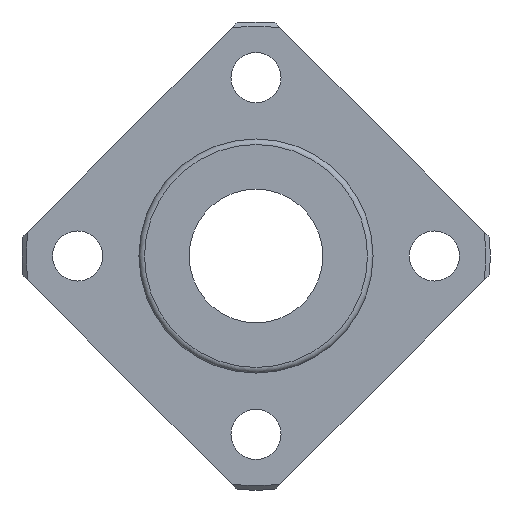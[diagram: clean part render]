
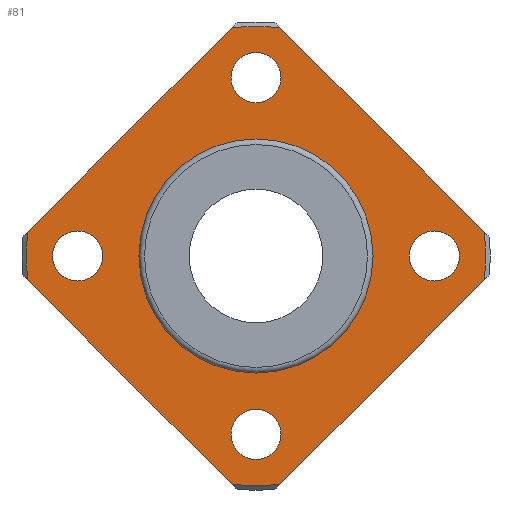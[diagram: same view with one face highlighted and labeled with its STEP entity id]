
A CAD part, left-side view. The second image highlights one B-rep face of the part: STEP entity #81.
In plain terms, the highlighted planar face has unit normal (-1, 0, 0).
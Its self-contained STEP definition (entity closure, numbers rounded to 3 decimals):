
#81=ADVANCED_FACE('',(#124,#125,#126,#127,#128,#129),#130,.T.);
#124=FACE_BOUND('',#224,.T.);
#125=FACE_BOUND('',#225,.T.);
#126=FACE_BOUND('',#226,.T.);
#127=FACE_BOUND('',#227,.T.);
#128=FACE_BOUND('',#228,.T.);
#129=FACE_OUTER_BOUND('',#229,.T.);
#130=PLANE('',#230);
#224=EDGE_LOOP('',(#362));
#225=EDGE_LOOP('',(#363));
#226=EDGE_LOOP('',(#364));
#227=EDGE_LOOP('',(#365));
#228=EDGE_LOOP('',(#366));
#229=EDGE_LOOP('',(#367,#368,#369,#370,#371,#372,#373,#374));
#230=AXIS2_PLACEMENT_3D('',#375,#376,#377);
#362=ORIENTED_EDGE('',*,*,#589,.F.);
#363=ORIENTED_EDGE('',*,*,#590,.T.);
#364=ORIENTED_EDGE('',*,*,#591,.T.);
#365=ORIENTED_EDGE('',*,*,#592,.T.);
#366=ORIENTED_EDGE('',*,*,#593,.T.);
#367=ORIENTED_EDGE('',*,*,#572,.T.);
#368=ORIENTED_EDGE('',*,*,#574,.T.);
#369=ORIENTED_EDGE('',*,*,#594,.T.);
#370=ORIENTED_EDGE('',*,*,#595,.T.);
#371=ORIENTED_EDGE('',*,*,#596,.T.);
#372=ORIENTED_EDGE('',*,*,#562,.T.);
#373=ORIENTED_EDGE('',*,*,#597,.T.);
#374=ORIENTED_EDGE('',*,*,#598,.T.);
#375=CARTESIAN_POINT('',(-6.0,15.375,0.0));
#376=DIRECTION('',(-1.0,0.0,0.));
#377=DIRECTION('',(0.,0.0,1.0));
#562=EDGE_CURVE('',#633,#634,#635,.T.);
#572=EDGE_CURVE('',#654,#652,#655,.T.);
#574=EDGE_CURVE('',#652,#657,#658,.T.);
#589=EDGE_CURVE('',#683,#683,#684,.T.);
#590=EDGE_CURVE('',#685,#685,#686,.T.);
#591=EDGE_CURVE('',#687,#687,#688,.T.);
#592=EDGE_CURVE('',#689,#689,#690,.T.);
#593=EDGE_CURVE('',#691,#691,#692,.T.);
#594=EDGE_CURVE('',#657,#693,#694,.T.);
#595=EDGE_CURVE('',#693,#695,#696,.T.);
#596=EDGE_CURVE('',#695,#633,#697,.T.);
#597=EDGE_CURVE('',#634,#698,#699,.T.);
#598=EDGE_CURVE('',#698,#654,#700,.T.);
#633=VERTEX_POINT('',#759);
#634=VERTEX_POINT('',#760);
#635=LINE('',#761,#762);
#652=VERTEX_POINT('',#794);
#654=VERTEX_POINT('',#799);
#655=CIRCLE('',#800,20.6);
#657=VERTEX_POINT('',#805);
#658=LINE('',#806,#807);
#683=VERTEX_POINT('',#847);
#684=CIRCLE('',#848,10.15);
#685=VERTEX_POINT('',#849);
#686=CIRCLE('',#850,2.25);
#687=VERTEX_POINT('',#851);
#688=CIRCLE('',#852,2.25);
#689=VERTEX_POINT('',#853);
#690=CIRCLE('',#854,2.25);
#691=VERTEX_POINT('',#855);
#692=CIRCLE('',#856,2.25);
#693=VERTEX_POINT('',#857);
#694=CIRCLE('',#858,20.6);
#695=VERTEX_POINT('',#859);
#696=LINE('',#860,#861);
#697=CIRCLE('',#862,20.6);
#698=VERTEX_POINT('',#863);
#699=CIRCLE('',#864,20.6);
#700=LINE('',#865,#866);
#759=CARTESIAN_POINT('',(-6.0,-2.139,-20.489));
#760=CARTESIAN_POINT('',(-6.0,-20.489,-2.139));
#761=CARTESIAN_POINT('',(-6.0,-3.626,-19.001));
#762=VECTOR('',#949,1.0);
#794=CARTESIAN_POINT('',(-6.0,2.139,20.489));
#799=CARTESIAN_POINT('',(-6.0,-2.139,20.489));
#800=AXIS2_PLACEMENT_3D('',#956,#957,#958);
#805=CARTESIAN_POINT('',(-6.0,20.489,2.139));
#806=CARTESIAN_POINT('',(-6.0,19.001,3.626));
#807=VECTOR('',#959,1.0);
#847=CARTESIAN_POINT('',(-6.0,10.15,0.0));
#848=AXIS2_PLACEMENT_3D('',#981,#982,#983);
#849=CARTESIAN_POINT('',(-6.0,16.0,2.25));
#850=AXIS2_PLACEMENT_3D('',#984,#985,#986);
#851=CARTESIAN_POINT('',(-6.0,0.0,-13.75));
#852=AXIS2_PLACEMENT_3D('',#987,#988,#989);
#853=CARTESIAN_POINT('',(-6.0,-16.0,2.25));
#854=AXIS2_PLACEMENT_3D('',#990,#991,#992);
#855=CARTESIAN_POINT('',(-6.0,0.0,18.25));
#856=AXIS2_PLACEMENT_3D('',#993,#994,#995);
#857=CARTESIAN_POINT('',(-6.0,20.489,-2.139));
#858=AXIS2_PLACEMENT_3D('',#996,#997,#998);
#859=CARTESIAN_POINT('',(-6.0,2.139,-20.489));
#860=CARTESIAN_POINT('',(-6.0,19.001,-3.626));
#861=VECTOR('',#999,1.0);
#862=AXIS2_PLACEMENT_3D('',#1000,#1001,#1002);
#863=CARTESIAN_POINT('',(-6.0,-20.489,2.139));
#864=AXIS2_PLACEMENT_3D('',#1003,#1004,#1005);
#865=CARTESIAN_POINT('',(-6.0,-3.626,19.001));
#866=VECTOR('',#1006,1.0);
#949=DIRECTION('',(0.,-0.707,0.707));
#956=CARTESIAN_POINT('',(-6.0,0.0,0.0));
#957=DIRECTION('',(-1.0,0.0,0.));
#958=DIRECTION('',(0.0,1.0,0.0));
#959=DIRECTION('',(0.,0.707,-0.707));
#981=CARTESIAN_POINT('',(-6.0,0.0,0.0));
#982=DIRECTION('',(-1.0,0.0,0.));
#983=DIRECTION('',(0.0,1.0,0.0));
#984=CARTESIAN_POINT('',(-6.0,16.0,0.));
#985=DIRECTION('',(1.0,0.0,0.));
#986=DIRECTION('',(0.,0.0,-1.0));
#987=CARTESIAN_POINT('',(-6.0,0.0,-16.0));
#988=DIRECTION('',(1.0,0.0,0.));
#989=DIRECTION('',(0.,0.0,-1.0));
#990=CARTESIAN_POINT('',(-6.0,-16.0,0.));
#991=DIRECTION('',(1.0,0.0,0.));
#992=DIRECTION('',(0.,0.0,-1.0));
#993=CARTESIAN_POINT('',(-6.0,0.0,16.0));
#994=DIRECTION('',(1.0,0.0,0.));
#995=DIRECTION('',(0.,0.0,-1.0));
#996=CARTESIAN_POINT('',(-6.0,0.0,0.0));
#997=DIRECTION('',(-1.0,0.0,0.));
#998=DIRECTION('',(0.0,1.0,0.0));
#999=DIRECTION('',(0.,-0.707,-0.707));
#1000=CARTESIAN_POINT('',(-6.0,0.0,0.0));
#1001=DIRECTION('',(-1.0,0.0,0.));
#1002=DIRECTION('',(0.0,1.0,0.0));
#1003=CARTESIAN_POINT('',(-6.0,0.0,0.0));
#1004=DIRECTION('',(-1.0,0.0,0.));
#1005=DIRECTION('',(0.0,1.0,0.0));
#1006=DIRECTION('',(0.,0.707,0.707));
